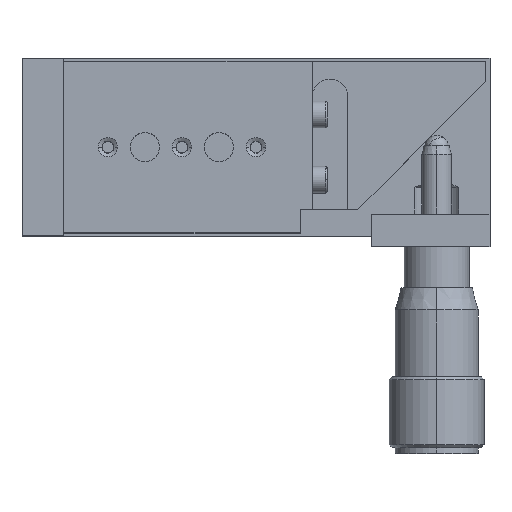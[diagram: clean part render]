
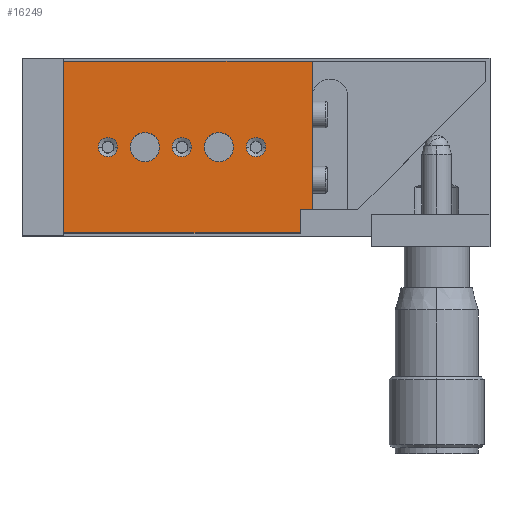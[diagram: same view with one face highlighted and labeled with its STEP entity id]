
A CAD part, top view. The second image highlights one B-rep face of the part: STEP entity #16249.
In plain terms, the highlighted planar face has unit normal (0, 0, 1).
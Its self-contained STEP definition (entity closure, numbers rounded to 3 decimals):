
#3110 = CARTESIAN_POINT ( 'NONE',  ( 5.879, 15., 22. ) ) ;
#4093 = CARTESIAN_POINT ( 'NONE',  ( 26.25, 15., 22. ) ) ;
#4094 = AXIS2_PLACEMENT_3D ( 'NONE', #4093, #4158, #4157 ) ;
#4095 = CIRCLE ( 'NONE', #4094, 2.458 ) ;
#4096 = CARTESIAN_POINT ( 'NONE',  ( 23.791, 15., 22. ) ) ;
#4132 = CARTESIAN_POINT ( 'NONE',  ( 34.121, 15., 22. ) ) ;
#4133 = CARTESIAN_POINT ( 'NONE',  ( 30.879, 15., 22. ) ) ;
#4156 = CARTESIAN_POINT ( 'NONE',  ( 28.708, 15., 22. ) ) ;
#4157 = DIRECTION ( 'NONE',  ( 1., 0., 0. ) ) ;
#4158 = DIRECTION ( 'NONE',  ( 0., 0., -1. ) ) ;
#4219 = CARTESIAN_POINT ( 'NONE',  ( 16.208, 15., 22. ) ) ;
#4220 = DIRECTION ( 'NONE',  ( 1., 0., 0. ) ) ;
#4221 = DIRECTION ( 'NONE',  ( 0., 0., -1. ) ) ;
#4222 = CARTESIAN_POINT ( 'NONE',  ( 13.75, 15., 22. ) ) ;
#4223 = AXIS2_PLACEMENT_3D ( 'NONE', #4222, #4221, #4220 ) ;
#4224 = CIRCLE ( 'NONE', #4223, 2.459 ) ;
#4225 = CARTESIAN_POINT ( 'NONE',  ( 11.291, 15., 22. ) ) ;
#4227 = CARTESIAN_POINT ( 'NONE',  ( 18.379, 15., 22. ) ) ;
#4318 = CARTESIAN_POINT ( 'NONE',  ( 21.621, 15., 22. ) ) ;
#4319 = DIRECTION ( 'NONE',  ( 1., 0., 0. ) ) ;
#4320 = DIRECTION ( 'NONE',  ( 0., 0., -1. ) ) ;
#4321 = CARTESIAN_POINT ( 'NONE',  ( 20., 15., 22. ) ) ;
#4322 = AXIS2_PLACEMENT_3D ( 'NONE', #4321, #4320, #4319 ) ;
#4323 = CIRCLE ( 'NONE', #4322, 1.621 ) ;
#4324 = DIRECTION ( 'NONE',  ( 1., 0., 0. ) ) ;
#4325 = DIRECTION ( 'NONE',  ( 0., 0., -1. ) ) ;
#4326 = CARTESIAN_POINT ( 'NONE',  ( 7.5, 15., 22. ) ) ;
#4327 = AXIS2_PLACEMENT_3D ( 'NONE', #4326, #4325, #4324 ) ;
#4328 = CIRCLE ( 'NONE', #4327, 1.621 ) ;
#4422 = DIRECTION ( 'NONE',  ( 1., 0., 0. ) ) ;
#4423 = DIRECTION ( 'NONE',  ( 0., 0., -1. ) ) ;
#4424 = CARTESIAN_POINT ( 'NONE',  ( 32.5, 15., 22. ) ) ;
#4425 = AXIS2_PLACEMENT_3D ( 'NONE', #4424, #4423, #4422 ) ;
#4426 = CIRCLE ( 'NONE', #4425, 1.621 ) ;
#4427 = CARTESIAN_POINT ( 'NONE',  ( 9.121, 15., 22. ) ) ;
#15810 = EDGE_CURVE ( 'NONE', #15886, #15811, #28340, .T. ) ;
#15811 = VERTEX_POINT ( 'NONE', #28336 ) ;
#15886 = VERTEX_POINT ( 'NONE', #28510 ) ;
#16056 = VERTEX_POINT ( 'NONE', #28930 ) ;
#16130 = VERTEX_POINT ( 'NONE', #29104 ) ;
#16135 = EDGE_CURVE ( 'NONE', #16130, #16056, #29106, .T. ) ;
#16177 = ORIENTED_EDGE ( 'NONE', *, *, #16179, .T. ) ;
#16179 = EDGE_CURVE ( 'NONE', #20826, #20827, #29266, .T. ) ;
#16181 = EDGE_LOOP ( 'NONE', ( #16183, #16185 ) ) ;
#16183 = ORIENTED_EDGE ( 'NONE', *, *, #20885, .T. ) ;
#16185 = ORIENTED_EDGE ( 'NONE', *, *, #16291, .T. ) ;
#16216 = ORIENTED_EDGE ( 'NONE', *, *, #20884, .T. ) ;
#16219 = ORIENTED_EDGE ( 'NONE', *, *, #16220, .T. ) ;
#16220 = EDGE_CURVE ( 'NONE', #20354, #20934, #29424, .T. ) ;
#16222 = EDGE_LOOP ( 'NONE', ( #16224, #16226 ) ) ;
#16224 = ORIENTED_EDGE ( 'NONE', *, *, #20813, .T. ) ;
#16226 = ORIENTED_EDGE ( 'NONE', *, *, #16228, .T. ) ;
#16228 = EDGE_CURVE ( 'NONE', #20811, #20814, #29415, .T. ) ;
#16229 = EDGE_LOOP ( 'NONE', ( #16232, #16235 ) ) ;
#16232 = ORIENTED_EDGE ( 'NONE', *, *, #20850, .T. ) ;
#16235 = ORIENTED_EDGE ( 'NONE', *, *, #16237, .T. ) ;
#16237 = EDGE_CURVE ( 'NONE', #20848, #20851, #29399, .T. ) ;
#16238 = EDGE_LOOP ( 'NONE', ( #16266, #16268, #16274, #16280, #16284, #16285 ) ) ;
#16244 = EDGE_CURVE ( 'NONE', #16056, #15886, #28767, .T. ) ;
#16249 = ADVANCED_FACE ( 'NONE', ( #29440, #29439, #29442, #29441, #29444, #29443 ), #29445, .T. ) ;
#16250 = EDGE_LOOP ( 'NONE', ( #16253, #16177 ) ) ;
#16253 = ORIENTED_EDGE ( 'NONE', *, *, #20936, .T. ) ;
#16266 = ORIENTED_EDGE ( 'NONE', *, *, #16135, .F. ) ;
#16268 = ORIENTED_EDGE ( 'NONE', *, *, #16269, .T. ) ;
#16269 = EDGE_CURVE ( 'NONE', #16130, #16271, #29544, .T. ) ;
#16271 = VERTEX_POINT ( 'NONE', #29540 ) ;
#16274 = ORIENTED_EDGE ( 'NONE', *, *, #16275, .T. ) ;
#16275 = EDGE_CURVE ( 'NONE', #16271, #16277, #29533, .T. ) ;
#16277 = VERTEX_POINT ( 'NONE', #29529 ) ;
#16280 = ORIENTED_EDGE ( 'NONE', *, *, #16281, .T. ) ;
#16281 = EDGE_CURVE ( 'NONE', #16277, #15811, #29523, .T. ) ;
#16284 = ORIENTED_EDGE ( 'NONE', *, *, #15810, .F. ) ;
#16285 = ORIENTED_EDGE ( 'NONE', *, *, #16244, .F. ) ;
#16291 = EDGE_CURVE ( 'NONE', #20845, #20886, #29566, .T. ) ;
#16293 = EDGE_LOOP ( 'NONE', ( #16216, #16219 ) ) ;
#20354 = VERTEX_POINT ( 'NONE', #3110 ) ;
#20811 = VERTEX_POINT ( 'NONE', #4096 ) ;
#20813 = EDGE_CURVE ( 'NONE', #20814, #20811, #4095, .T. ) ;
#20814 = VERTEX_POINT ( 'NONE', #4156 ) ;
#20826 = VERTEX_POINT ( 'NONE', #4133 ) ;
#20827 = VERTEX_POINT ( 'NONE', #4132 ) ;
#20845 = VERTEX_POINT ( 'NONE', #4227 ) ;
#20848 = VERTEX_POINT ( 'NONE', #4225 ) ;
#20850 = EDGE_CURVE ( 'NONE', #20851, #20848, #4224, .T. ) ;
#20851 = VERTEX_POINT ( 'NONE', #4219 ) ;
#20884 = EDGE_CURVE ( 'NONE', #20934, #20354, #4328, .T. ) ;
#20885 = EDGE_CURVE ( 'NONE', #20886, #20845, #4323, .T. ) ;
#20886 = VERTEX_POINT ( 'NONE', #4318 ) ;
#20934 = VERTEX_POINT ( 'NONE', #4427 ) ;
#20936 = EDGE_CURVE ( 'NONE', #20827, #20826, #4426, .T. ) ;
#28300 = CARTESIAN_POINT ( 'NONE',  ( 0., 29.5, 22. ) ) ;
#28301 = DIRECTION ( 'NONE',  ( 1., 0., 0. ) ) ;
#28336 = CARTESIAN_POINT ( 'NONE',  ( 42., 29.5, 22. ) ) ;
#28337 = DIRECTION ( 'NONE',  ( 1., 0., 0. ) ) ;
#28338 = VECTOR ( 'NONE', #28337, 1000. ) ;
#28339 = CARTESIAN_POINT ( 'NONE',  ( 40., 29.5, 22. ) ) ;
#28340 = LINE ( 'NONE', #28339, #28338 ) ;
#28510 = CARTESIAN_POINT ( 'NONE',  ( 0., 29.5, 22. ) ) ;
#28544 = VECTOR ( 'NONE', #28953, 1000. ) ;
#28767 = LINE ( 'NONE', #28300, #28544 ) ;
#28930 = CARTESIAN_POINT ( 'NONE',  ( 0., 0.5, 22. ) ) ;
#28953 = DIRECTION ( 'NONE',  ( 0., 1., 0. ) ) ;
#29104 = CARTESIAN_POINT ( 'NONE',  ( 40., 0.5, 22. ) ) ;
#29105 = CARTESIAN_POINT ( 'NONE',  ( 0., 0.5, 22. ) ) ;
#29106 = LINE ( 'NONE', #29105, #29133 ) ;
#29132 = DIRECTION ( 'NONE',  ( -1., 0., 0. ) ) ;
#29133 = VECTOR ( 'NONE', #29132, 1000. ) ;
#29262 = DIRECTION ( 'NONE',  ( 1., 0., 0. ) ) ;
#29263 = DIRECTION ( 'NONE',  ( 0., 0., -1. ) ) ;
#29264 = CARTESIAN_POINT ( 'NONE',  ( 32.5, 15., 22. ) ) ;
#29265 = AXIS2_PLACEMENT_3D ( 'NONE', #29264, #29263, #29262 ) ;
#29266 = CIRCLE ( 'NONE', #29265, 1.621 ) ;
#29396 = DIRECTION ( 'NONE',  ( 0., 0., -1. ) ) ;
#29397 = CARTESIAN_POINT ( 'NONE',  ( 13.75, 15., 22. ) ) ;
#29398 = AXIS2_PLACEMENT_3D ( 'NONE', #29397, #29396, #28301 ) ;
#29399 = CIRCLE ( 'NONE', #29398, 2.459 ) ;
#29411 = DIRECTION ( 'NONE',  ( 1., 0., 0. ) ) ;
#29412 = DIRECTION ( 'NONE',  ( 0., 0., -1. ) ) ;
#29413 = CARTESIAN_POINT ( 'NONE',  ( 26.25, 15., 22. ) ) ;
#29414 = AXIS2_PLACEMENT_3D ( 'NONE', #29413, #29412, #29411 ) ;
#29415 = CIRCLE ( 'NONE', #29414, 2.458 ) ;
#29420 = DIRECTION ( 'NONE',  ( 1., 0., 0. ) ) ;
#29421 = DIRECTION ( 'NONE',  ( 0., 0., -1. ) ) ;
#29422 = CARTESIAN_POINT ( 'NONE',  ( 7.5, 15., 22. ) ) ;
#29423 = AXIS2_PLACEMENT_3D ( 'NONE', #29422, #29421, #29420 ) ;
#29424 = CIRCLE ( 'NONE', #29423, 1.621 ) ;
#29435 = DIRECTION ( 'NONE',  ( 0., -1., 0. ) ) ;
#29436 = DIRECTION ( 'NONE',  ( 0., 0., 1. ) ) ;
#29437 = CARTESIAN_POINT ( 'NONE',  ( 41., 17., 22. ) ) ;
#29438 = AXIS2_PLACEMENT_3D ( 'NONE', #29437, #29436, #29435 ) ;
#29439 = FACE_BOUND ( 'NONE', #16181, .T. ) ;
#29440 = FACE_BOUND ( 'NONE', #16250, .T. ) ;
#29441 = FACE_BOUND ( 'NONE', #16222, .T. ) ;
#29442 = FACE_BOUND ( 'NONE', #16293, .T. ) ;
#29443 = FACE_OUTER_BOUND ( 'NONE', #16238, .T. ) ;
#29444 = FACE_BOUND ( 'NONE', #16229, .T. ) ;
#29445 = PLANE ( 'NONE',  #29438 ) ;
#29520 = DIRECTION ( 'NONE',  ( 0., 1., 0. ) ) ;
#29521 = VECTOR ( 'NONE', #29520, 1000. ) ;
#29522 = CARTESIAN_POINT ( 'NONE',  ( 42., 17., 22. ) ) ;
#29523 = LINE ( 'NONE', #29522, #29521 ) ;
#29529 = CARTESIAN_POINT ( 'NONE',  ( 42., 4.5, 22. ) ) ;
#29530 = DIRECTION ( 'NONE',  ( 1., 0., 0. ) ) ;
#29531 = VECTOR ( 'NONE', #29530, 1000. ) ;
#29532 = CARTESIAN_POINT ( 'NONE',  ( 41., 4.5, 22. ) ) ;
#29533 = LINE ( 'NONE', #29532, #29531 ) ;
#29540 = CARTESIAN_POINT ( 'NONE',  ( 40., 4.5, 22. ) ) ;
#29541 = DIRECTION ( 'NONE',  ( 0., 1., 0. ) ) ;
#29542 = VECTOR ( 'NONE', #29541, 1000. ) ;
#29543 = CARTESIAN_POINT ( 'NONE',  ( 40., 17., 22. ) ) ;
#29544 = LINE ( 'NONE', #29543, #29542 ) ;
#29562 = DIRECTION ( 'NONE',  ( 1., 0., 0. ) ) ;
#29563 = DIRECTION ( 'NONE',  ( 0., 0., -1. ) ) ;
#29564 = CARTESIAN_POINT ( 'NONE',  ( 20., 15., 22. ) ) ;
#29565 = AXIS2_PLACEMENT_3D ( 'NONE', #29564, #29563, #29562 ) ;
#29566 = CIRCLE ( 'NONE', #29565, 1.621 ) ;
